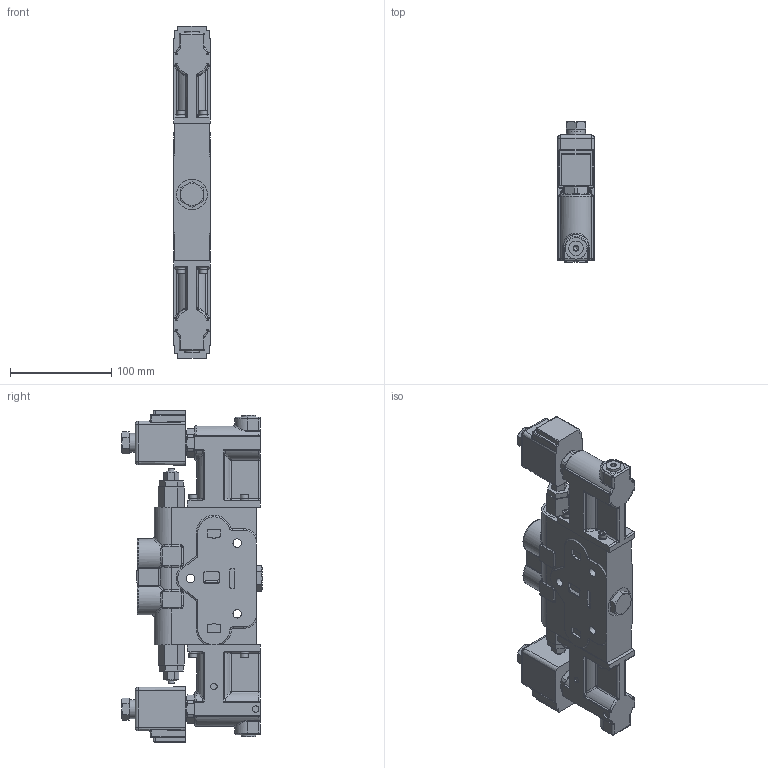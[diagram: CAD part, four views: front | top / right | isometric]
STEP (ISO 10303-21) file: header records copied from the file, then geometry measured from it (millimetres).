
FILE_DESCRIPTION((''),'2;1');
FILE_NAME('C:\Vault\Workspace\z_ShellModels\SV\SVH1BAGG-Txxx.stp','2012-03-15T08:33:39',('PetersW'),(''),'Autodesk Inventor 2012','Autodesk Inventor 2012','');
FILE_SCHEMA(('AUTOMOTIVE_DESIGN { 1 0 10303 214 1 1 1 1 }'));
Length unit declared in the file: inch
Products named in the file (1): Part6
Bounding box: 36.86 x 138.48 x 327.86 mm (x, y, z)
Volume: 1040018.4 mm3; surface area: 162880.8 mm2
Topology: 37 solids, 38 shells, 1574 faces, 3861 edges, 2358 vertices
Faces by surface type: plane 745, cylinder 410, cone 152, bspline 116, torus 111, sphere 40
Full cylindrical faces by diameter (mm): 3.454 x2, 4.75 x16, 4.775 x2, 4.978 x4, 5.055 x8, 6.096 x2, 6.35 x4, 7.137 x2, 7.925 x8, 8.331 x5, 8.801 x4, 9.246 x4, 9.881 x2, 10.439 x2, 11.113 x2, 11.125 x1, 12.7 x4, 12.764 x1, 13.462 x6, 14.3 x2, 14.859 x2, 15.875 x5, 15.9 x4, 15.913 x6, 16.002 x2, 16.256 x2, 16.751 x1, 16.764 x4, 17.501 x5, 18.796 x2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
Entity records: 48722 total; most frequent: CARTESIAN_POINT 12337, DIRECTION 7283, ORIENTED_EDGE 6864, EDGE_CURVE 3432, AXIS2_PLACEMENT_3D 2799, VERTEX_POINT 2217, EDGE_LOOP 1931, VECTOR 1685
